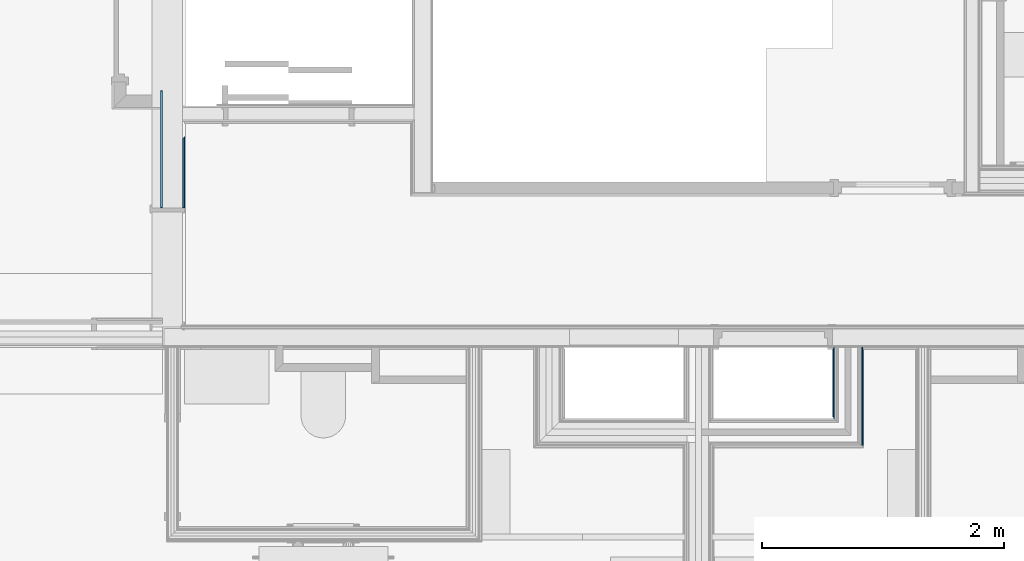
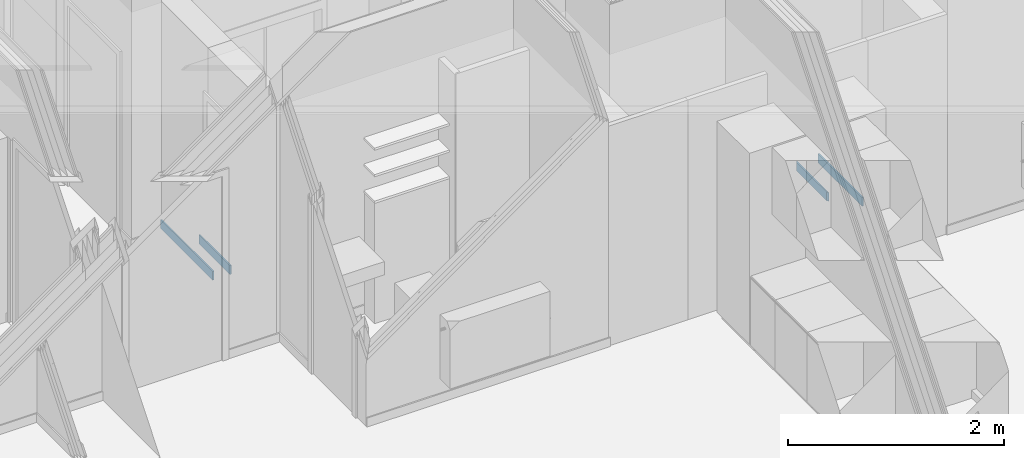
# One storey, part 9 of 65: 4 walls, 2 openings.
"""IFC2X3 building model written with IfcOpenShell, lengths in metres."""

import ifcopenshell
import ifcopenshell.guid

model = None  # the IFC model being written
_history = None  # IfcOwnerHistory: only IFC2X3 demands one
_inside = {}  # id of a spatial element -> (the spatial element, [elements in it])
_under = {}  # id of a project, library or spatial element -> (it, [spatial elements below it])
_declared = {}  # id of a project -> (the project, [libraries it declares])
_typed = {}  # id of a type object -> (the type object, [elements of that type])
_made_of = {}  # id of a material, layer set ... -> (it, [elements and type objects made of it])


def new_model(schema):
    """Start an empty IFC model of exactly this schema.

    Asked for "IFC4X3", IfcOpenShell would pick the latest addendum, in which some entities
    have other attributes; the version numbers below select the first issue.
    IFC2X3 requires an IfcOwnerHistory on every rooted entity: one is made here for all.
    """
    global model, _history
    if schema == "IFC4X3":
        model = ifcopenshell.file(schema_version=(4, 3, 0, 0))
    else:
        model = ifcopenshell.file(schema=schema)
    _inside.clear()
    _under.clear()
    _declared.clear()
    _typed.clear()
    _made_of.clear()
    _history = None
    if model.schema == "IFC2X3":
        org = make("IfcOrganization", Name="unknown")
        user = make(
            "IfcPersonAndOrganization",
            ThePerson=make("IfcPerson", FamilyName="unknown"),
            TheOrganization=org,
        )
        app = make(
            "IfcApplication",
            ApplicationDeveloper=org,
            Version="unknown",
            ApplicationFullName="unknown",
            ApplicationIdentifier="unknown",
        )
        _history = make(
            "IfcOwnerHistory",
            OwningUser=user,
            OwningApplication=app,
            ChangeAction="ADDED",
            CreationDate=0,
        )
    return model


def make(cls, **values):
    """One entity of the class cls with the attributes given. An attribute that is None is left unset."""
    return model.create_entity(
        cls, **{name: value for name, value in values.items() if value is not None}
    )


def entity(cls, *values):
    """Any entity or typed value of the class cls, its attributes in the order of the schema. None: left unset."""
    e = model.create_entity(cls)
    for i, value in enumerate(values):
        if value is not None:
            e[i] = value
    return e


def rooted(cls, **values):
    """An entity with a GlobalId (a new one), such as an element, a storey or a relation."""
    return make(cls, GlobalId=ifcopenshell.guid.new(), OwnerHistory=_history, **values)


def si_unit(unit_type, name, prefix=None):
    """IfcSIUnit, for example si_unit("LENGTHUNIT", "METRE", prefix="MILLI")."""
    return make("IfcSIUnit", UnitType=unit_type, Prefix=prefix, Name=name)


def converted_unit(unit_type, name, factor, base, dimensions=None, offset=None):
    """IfcConversionBasedUnit, such as the inch: factor (a typed value) times the base unit."""
    return make(
        "IfcConversionBasedUnit"
        if offset is None
        else "IfcConversionBasedUnitWithOffset",
        ConversionOffset=offset,
        Dimensions=None
        if dimensions is None
        else entity("IfcDimensionalExponents", *dimensions),
        UnitType=unit_type,
        Name=name,
        ConversionFactor=make(
            "IfcMeasureWithUnit", ValueComponent=factor, UnitComponent=base
        ),
    )


def derived_unit(unit_type, elements):
    """IfcDerivedUnit: a product of units, each with its exponent."""
    return make(
        "IfcDerivedUnit",
        Elements=[
            make("IfcDerivedUnitElement", Unit=unit, Exponent=power)
            for unit, power in elements
        ],
        UnitType=unit_type,
    )


def money_unit(currency):
    """IfcMonetaryUnit."""
    return make("IfcMonetaryUnit", Currency=currency)


def assignment(units):
    """IfcUnitAssignment: the units of a project."""
    return None if units is None else make("IfcUnitAssignment", Units=units)


def point(xyz):
    """IfcCartesianPoint."""
    return None if xyz is None else make("IfcCartesianPoint", Coordinates=xyz)


def direction(xyz):
    """IfcDirection."""
    return None if xyz is None else make("IfcDirection", DirectionRatios=xyz)


def frame(location, z_axis=None, x_axis=None):
    """IfcAxis2Placement3D, a coordinate frame: its origin and axes. An axis left out is left unset."""
    return make(
        "IfcAxis2Placement3D",
        Location=point(location),
        Axis=direction(z_axis),
        RefDirection=direction(x_axis),
    )


def frame_2d(location, x_axis=None):
    """IfcAxis2Placement2D, a coordinate frame in the plane: its origin and x axis."""
    return make(
        "IfcAxis2Placement2D", Location=point(location), RefDirection=direction(x_axis)
    )


def origin_with_axes():
    """The frame at (0, 0, 0) with the z axis (0, 0, 1) and the x axis (1, 0, 0) written out."""
    return frame((0.0, 0.0, 0.0), z_axis=(0.0, 0.0, 1.0), x_axis=(1.0, 0.0, 0.0))


def place(relative_to, where):
    """IfcLocalPlacement: puts the frame where relative to a parent placement (None: the world)."""
    return make(
        "IfcLocalPlacement", PlacementRelTo=relative_to, RelativePlacement=where
    )


def context(
    kind, dimensions, precision=None, world=None, true_north=None, identifier=None
):
    """IfcGeometricRepresentationContext, for example the 3D "Model" context."""
    return make(
        "IfcGeometricRepresentationContext",
        ContextIdentifier=identifier,
        ContextType=kind,
        CoordinateSpaceDimension=dimensions,
        Precision=precision,
        WorldCoordinateSystem=world,
        TrueNorth=true_north,
    )


def subcontext(parent, identifier, kind, view, scale=None):
    """IfcGeometricRepresentationSubContext, for example "Body" below "Model"."""
    return make(
        "IfcGeometricRepresentationSubContext",
        ContextIdentifier=identifier,
        ContextType=kind,
        ParentContext=parent,
        TargetScale=scale,
        TargetView=view,
    )


def project(units=None, contexts=None):
    """IfcProject with its units and contexts."""
    return rooted(
        "IfcProject",
        Name="project",
        RepresentationContexts=contexts,
        UnitsInContext=assignment(units),
    )


def spatial(cls, under=None, at=None, **own):
    """A site, building, storey or space (cls), placed at a placement, below another one or the project."""
    s = rooted(cls, ObjectPlacement=at, **own)
    if under is not None:
        _under.setdefault(under.id(), (under, []))[1].append(s)
    return s


def polyline(points):
    """IfcPolyline through the points."""
    return make("IfcPolyline", Points=[point(p) for p in points])


def profile(cls, at=None, kind="AREA", **sizes):
    """A parametric profile (cls). Its sizes go by their IFC names, for example OverallWidth=200.0."""
    return make(cls, ProfileType=kind, Position=at, **sizes)


def rectangle(**sizes):
    """IfcRectangleProfileDef."""
    return profile("IfcRectangleProfileDef", **sizes)


def outline(outer, holes=None, kind="AREA"):
    """IfcArbitraryClosedProfileDef: a profile drawn as a closed curve; with holes, ...WithVoids."""
    if holes is None:
        return make("IfcArbitraryClosedProfileDef", ProfileType=kind, OuterCurve=outer)
    return make(
        "IfcArbitraryProfileDefWithVoids",
        ProfileType=kind,
        OuterCurve=outer,
        InnerCurves=holes,
    )


def extrude(swept, where, along, depth):
    """IfcExtrudedAreaSolid: the profile swept, set in the frame where, extruded along a direction by depth."""
    return make(
        "IfcExtrudedAreaSolid",
        SweptArea=swept,
        Position=where,
        ExtrudedDirection=direction(along),
        Depth=depth,
    )


def shape(context_of_items, identifier, shape_type, items):
    """IfcShapeRepresentation: the items that make up one representation, for example the "Body"."""
    return make(
        "IfcShapeRepresentation",
        ContextOfItems=context_of_items,
        RepresentationIdentifier=identifier,
        RepresentationType=shape_type,
        Items=items,
    )


def material(Name=None, Category=None):
    """IfcMaterial."""
    return make("IfcMaterial", Name=Name, Category=Category)


def layer(
    of_material, thickness, ventilated=None, Name=None, Category=None, Priority=None
):
    """IfcMaterialLayer: one layer of a wall or slab, of a material (None: an air gap)."""
    return make(
        "IfcMaterialLayer",
        Material=of_material,
        LayerThickness=thickness,
        IsVentilated=ventilated,
        Name=Name,
        Category=Category,
        Priority=Priority,
    )


def layer_set(layers, Name=None):
    """IfcMaterialLayerSet."""
    return make("IfcMaterialLayerSet", MaterialLayers=layers, LayerSetName=Name)


def layer_usage(for_layer_set, set_direction, sense, offset, extent=None):
    """IfcMaterialLayerSetUsage: how a layer set lies in its element."""
    return make(
        "IfcMaterialLayerSetUsage",
        ForLayerSet=for_layer_set,
        LayerSetDirection=set_direction,
        DirectionSense=sense,
        OffsetFromReferenceLine=offset,
        ReferenceExtent=extent,
    )


def made_of(thing, what):
    """Note that an element or type object is made of a material, layer set ...; save() writes the relation."""
    if what is not None:
        _made_of.setdefault(what.id(), (what, []))[1].append(thing)
    return thing


def type_object(cls, material=None, **own):
    """A type object (cls), such as IfcWallType, which elements share."""
    return made_of(rooted(cls, **own), material)


def element(
    cls,
    number,
    at=None,
    inside=None,
    cuts=None,
    type_object=None,
    material=None,
    context=None,
    identifier="Body",
    shape_type=None,
    held_by="IfcProductDefinitionShape",
    body=None,
    shapes=None,
    **own,
):
    """One element of the class cls, such as IfcWall. Its Tag is "e" and its number.

    at: its placement. inside: the storey or other place that contains it. cuts: it is an
    opening in that element (IfcRelVoidsElement). A single representation is given by context,
    identifier, shape_type and body (its items); several are given by shapes. held_by: the class
    of the entity that holds the representations. save() writes the other relations.
    """
    e = rooted(cls, Tag="e%d" % number, ObjectPlacement=at, **own)
    if body is not None:
        shapes = [shape(context, identifier, shape_type, body)]
    if shapes is not None:
        e.Representation = make(held_by, Representations=shapes)
    if inside is not None:
        _inside.setdefault(inside.id(), (inside, []))[1].append(e)
    if cuts is not None:
        rooted(
            "IfcRelVoidsElement", RelatingBuildingElement=cuts, RelatedOpeningElement=e
        )
    if type_object is not None:
        _typed.setdefault(type_object.id(), (type_object, []))[1].append(e)
    return made_of(e, material)


def aggregate(whole, parts):
    """IfcRelAggregates: a whole, such as a stair, and the parts it consists of."""
    return rooted("IfcRelAggregates", RelatingObject=whole, RelatedObjects=parts)


def save(model, path):
    """Write the relations noted so far, then the file.

    IfcRelAggregates (storeys below a building ...), IfcRelContainedInSpatialStructure (elements
    in a storey), IfcRelDefinesByType, IfcRelAssociatesMaterial and IfcRelDeclares: one each for
    every whole, place, type object, material and project.
    """
    for whole, parts in _under.values():
        aggregate(whole, parts)
    for where, things in _inside.values():
        rooted(
            "IfcRelContainedInSpatialStructure",
            RelatedElements=things,
            RelatingStructure=where,
        )
    for kind, things in _typed.values():
        rooted("IfcRelDefinesByType", RelatedObjects=things, RelatingType=kind)
    for what, things in _made_of.values():
        rooted("IfcRelAssociatesMaterial", RelatedObjects=things, RelatingMaterial=what)
    for by, libraries in _declared.values():
        rooted("IfcRelDeclares", RelatingContext=by, RelatedDefinitions=libraries)
    model.write(path)


model = new_model("IFC2X3")

# Units and contexts
model_context = context("Model", 3, precision=1e-05, world=origin_with_axes(), true_north=direction((0.0, 1.0)))
body_context = subcontext(model_context, "Body", "Model", "MODEL_VIEW", scale=1.0)
ifc_project = project(units=[si_unit("LENGTHUNIT", "METRE"), si_unit("AREAUNIT", "SQUARE_METRE"), si_unit("VOLUMEUNIT", "CUBIC_METRE"), si_unit("ABSORBEDDOSEUNIT", "GRAY"), si_unit("AMOUNTOFSUBSTANCEUNIT", "MOLE"), si_unit("DOSEEQUIVALENTUNIT", "SIEVERT"), si_unit("ELECTRICCAPACITANCEUNIT", "FARAD"), si_unit("ELECTRICCHARGEUNIT", "COULOMB"), si_unit("ELECTRICCONDUCTANCEUNIT", "SIEMENS"), si_unit("ELECTRICCURRENTUNIT", "AMPERE"), si_unit("ELECTRICRESISTANCEUNIT", "OHM"), si_unit("ELECTRICVOLTAGEUNIT", "VOLT"), si_unit("ENERGYUNIT", "JOULE"), si_unit("FORCEUNIT", "NEWTON"), si_unit("FREQUENCYUNIT", "HERTZ"), si_unit("ILLUMINANCEUNIT", "LUX"), si_unit("INDUCTANCEUNIT", "HENRY"), si_unit("LUMINOUSFLUXUNIT", "LUMEN"), si_unit("LUMINOUSINTENSITYUNIT", "CANDELA"), si_unit("MAGNETICFLUXDENSITYUNIT", "TESLA"), si_unit("MAGNETICFLUXUNIT", "WEBER"), si_unit("MASSUNIT", "GRAM"), converted_unit("PLANEANGLEUNIT", "degree", entity("IfcReal", 0.0174532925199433), si_unit("PLANEANGLEUNIT", "RADIAN"), dimensions=[0, 0, 0, 0, 0, 0, 0]), si_unit("POWERUNIT", "WATT"), si_unit("PRESSUREUNIT", "PASCAL"), si_unit("RADIOACTIVITYUNIT", "BECQUEREL"), si_unit("SOLIDANGLEUNIT", "STERADIAN"), si_unit("THERMODYNAMICTEMPERATUREUNIT", "KELVIN"), si_unit("TIMEUNIT", "SECOND"), derived_unit("ACCELERATIONUNIT", [(si_unit("LENGTHUNIT", "METRE"), 1), (si_unit("TIMEUNIT", "SECOND"), -2)]), derived_unit("ANGULARVELOCITYUNIT", [(converted_unit("PLANEANGLEUNIT", "degree", entity("IfcReal", 0.0174532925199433), si_unit("PLANEANGLEUNIT", "RADIAN"), dimensions=[0, 0, 0, 0, 0, 0, 0]), 1), (si_unit("TIMEUNIT", "SECOND"), -1)]), derived_unit("CURVATUREUNIT", [(converted_unit("PLANEANGLEUNIT", "degree", entity("IfcReal", 0.0174532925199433), si_unit("PLANEANGLEUNIT", "RADIAN"), dimensions=[0, 0, 0, 0, 0, 0, 0]), 1), (si_unit("LENGTHUNIT", "METRE"), -1)]), derived_unit("DYNAMICVISCOSITYUNIT", [(si_unit("PRESSUREUNIT", "PASCAL"), 1), (si_unit("TIMEUNIT", "SECOND"), 1)]), derived_unit("HEATFLUXDENSITYUNIT", [(si_unit("POWERUNIT", "WATT"), 1), (si_unit("LENGTHUNIT", "METRE"), -2)]), derived_unit("HEATINGVALUEUNIT", [(si_unit("ENERGYUNIT", "JOULE"), 1), (si_unit("MASSUNIT", "GRAM"), -1)]), derived_unit("INTEGERCOUNTRATEUNIT", [(si_unit("TIMEUNIT", "SECOND"), -1)]), derived_unit("IONCONCENTRATIONUNIT", [(si_unit("MASSUNIT", "GRAM"), 1), (si_unit("VOLUMEUNIT", "CUBIC_METRE"), -1)]), derived_unit("ISOTHERMALMOISTURECAPACITYUNIT", [(si_unit("VOLUMEUNIT", "CUBIC_METRE"), 1), (si_unit("MASSUNIT", "GRAM"), -1)]), derived_unit("KINEMATICVISCOSITYUNIT", [(si_unit("AREAUNIT", "SQUARE_METRE"), 1), (si_unit("TIMEUNIT", "SECOND"), -1)]), derived_unit("LINEARFORCEUNIT", [(si_unit("FORCEUNIT", "NEWTON"), 1), (si_unit("LENGTHUNIT", "METRE"), -1)]), derived_unit("LINEARMOMENTUNIT", [(si_unit("FORCEUNIT", "NEWTON"), 1), (si_unit("LENGTHUNIT", "METRE"), -1)]), derived_unit("LINEARSTIFFNESSUNIT", [(si_unit("FORCEUNIT", "NEWTON"), 1), (si_unit("LENGTHUNIT", "METRE"), -1)]), derived_unit("LINEARVELOCITYUNIT", [(si_unit("LENGTHUNIT", "METRE"), 1), (si_unit("TIMEUNIT", "SECOND"), -1)]), derived_unit("LUMINOUSINTENSITYDISTRIBUTIONUNIT", [(si_unit("LUMINOUSINTENSITYUNIT", "CANDELA"), 1), (si_unit("LUMINOUSFLUXUNIT", "LUMEN"), -1)]), derived_unit("MASSDENSITYUNIT", [(si_unit("MASSUNIT", "GRAM"), 1), (si_unit("VOLUMEUNIT", "CUBIC_METRE"), -1)]), derived_unit("MASSFLOWRATEUNIT", [(si_unit("MASSUNIT", "GRAM"), 1), (si_unit("TIMEUNIT", "SECOND"), -1)]), derived_unit("MASSPERLENGTHUNIT", [(si_unit("MASSUNIT", "GRAM"), 1), (si_unit("LENGTHUNIT", "METRE"), -1)]), derived_unit("MODULUSOFELASTICITYUNIT", [(si_unit("FORCEUNIT", "NEWTON"), 1), (si_unit("AREAUNIT", "SQUARE_METRE"), -1)]), derived_unit("MODULUSOFLINEARSUBGRADEREACTIONUNIT", [(si_unit("FORCEUNIT", "NEWTON"), 1), (si_unit("LENGTHUNIT", "METRE"), -2)]), derived_unit("MODULUSOFROTATIONALSUBGRADEREACTIONUNIT", [(si_unit("FORCEUNIT", "NEWTON"), 1), (si_unit("LENGTHUNIT", "METRE"), 1)]), derived_unit("MODULUSOFSUBGRADEREACTIONUNIT", [(si_unit("FORCEUNIT", "NEWTON"), 1), (si_unit("VOLUMEUNIT", "CUBIC_METRE"), -1)]), derived_unit("MOISTUREDIFFUSIVITYUNIT", [(si_unit("VOLUMEUNIT", "CUBIC_METRE"), 1), (si_unit("TIMEUNIT", "SECOND"), -1)]), derived_unit("MOLECULARWEIGHTUNIT", [(si_unit("MASSUNIT", "GRAM"), 1), (si_unit("AMOUNTOFSUBSTANCEUNIT", "MOLE"), -1)]), derived_unit("PLANARFORCEUNIT", [(si_unit("FORCEUNIT", "NEWTON"), 1), (si_unit("LENGTHUNIT", "METRE"), -2)]), derived_unit("ROTATIONALFREQUENCYUNIT", [(si_unit("TIMEUNIT", "SECOND"), -1)]), derived_unit("ROTATIONALMASSUNIT", [(si_unit("MASSUNIT", "GRAM"), 1), (si_unit("LENGTHUNIT", "METRE"), 2)]), derived_unit("ROTATIONALSTIFFNESSUNIT", [(si_unit("FORCEUNIT", "NEWTON"), 1), (si_unit("LENGTHUNIT", "METRE"), 1), (converted_unit("PLANEANGLEUNIT", "degree", entity("IfcReal", 0.0174532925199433), si_unit("PLANEANGLEUNIT", "RADIAN"), dimensions=[0, 0, 0, 0, 0, 0, 0]), -1)]), derived_unit("SECTIONAREAINTEGRALUNIT", [(si_unit("LENGTHUNIT", "METRE"), 5)]), derived_unit("SECTIONMODULUSUNIT", [(si_unit("LENGTHUNIT", "METRE"), 3)]), derived_unit("SHEARMODULUSUNIT", [(si_unit("FORCEUNIT", "NEWTON"), 1), (si_unit("AREAUNIT", "SQUARE_METRE"), -1)]), derived_unit("SOUNDPOWERUNIT", [(si_unit("ENERGYUNIT", "JOULE"), 1), (si_unit("TIMEUNIT", "SECOND"), -1)]), derived_unit("SPECIFICHEATCAPACITYUNIT", [(si_unit("FORCEUNIT", "NEWTON"), 1), (si_unit("MASSUNIT", "GRAM"), -1), (si_unit("THERMODYNAMICTEMPERATUREUNIT", "KELVIN"), -1)]), derived_unit("TEMPERATUREGRADIENTUNIT", [(si_unit("THERMODYNAMICTEMPERATUREUNIT", "KELVIN"), 1), (si_unit("LENGTHUNIT", "METRE"), -1)]), derived_unit("THERMALADMITTANCEUNIT", [(si_unit("POWERUNIT", "WATT"), 1), (si_unit("AREAUNIT", "SQUARE_METRE"), -1), (si_unit("THERMODYNAMICTEMPERATUREUNIT", "KELVIN"), -1)]), derived_unit("THERMALCONDUCTANCEUNIT", [(si_unit("POWERUNIT", "WATT"), 1), (si_unit("LENGTHUNIT", "METRE"), -1), (si_unit("THERMODYNAMICTEMPERATUREUNIT", "KELVIN"), -1)]), derived_unit("THERMALEXPANSIONCOEFFICIENTUNIT", [(si_unit("THERMODYNAMICTEMPERATUREUNIT", "KELVIN"), -1)]), derived_unit("THERMALRESISTANCEUNIT", [(si_unit("AREAUNIT", "SQUARE_METRE"), 1), (si_unit("POWERUNIT", "WATT"), -1)]), derived_unit("THERMALTRANSMITTANCEUNIT", [(si_unit("POWERUNIT", "WATT"), 1), (si_unit("AREAUNIT", "SQUARE_METRE"), -1), (si_unit("THERMODYNAMICTEMPERATUREUNIT", "KELVIN"), -1)]), derived_unit("TORQUEUNIT", [(si_unit("FORCEUNIT", "NEWTON"), 1), (si_unit("LENGTHUNIT", "METRE"), 1)]), derived_unit("VAPORPERMEABILITYUNIT", [(si_unit("MASSUNIT", "GRAM"), 1), (si_unit("TIMEUNIT", "SECOND"), -1)]), derived_unit("VOLUMETRICFLOWRATEUNIT", [(si_unit("VOLUMEUNIT", "CUBIC_METRE"), 1), (si_unit("TIMEUNIT", "SECOND"), -1)]), derived_unit("WARPINGCONSTANTUNIT", [(si_unit("LENGTHUNIT", "METRE"), 6)]), derived_unit("WARPINGMOMENTUNIT", [(si_unit("FORCEUNIT", "NEWTON"), 1), (si_unit("LENGTHUNIT", "METRE"), 2)]), money_unit("GBP")], contexts=[model_context])

# Site, building, storey
site_placement = place(None, origin_with_axes())
site = spatial("IfcSite", under=ifc_project, at=site_placement, Name="Site", CompositionType="ELEMENT")
building_placement = place(site_placement, origin_with_axes())
building = spatial("IfcBuilding", under=site, at=building_placement, Name="Building01", CompositionType="ELEMENT")
storey_placement = place(building_placement, frame((0.0, 0.0, 8.64), z_axis=(0.0, 0.0, 1.0), x_axis=(1.0, 0.0, 0.0)))
storey = spatial("IfcBuildingStorey", under=building, at=storey_placement, Name="2F", CompositionType="ELEMENT", Elevation=8.64)

# Wall, opening
ifc_material = material(Name="A_BSUK_Walls_Timber")
ifc_layer = layer(ifc_material, 0.015, ventilated=False)
ifc_layer_set = layer_set([ifc_layer])
ifc_layer_usage = layer_usage(ifc_layer_set, "AXIS2", "POSITIVE", 0.0)
wall_type = type_object("IfcWallType", Name="default", PredefinedType="NOTDEFINED")
wall_1_placement = place(storey_placement, frame((9.23, 6.709081, 0.015), z_axis=(0.0, 0.0, 1.0), x_axis=(0.0, -1.0, 0.0)))
wall_1 = element("IfcWallStandardCase", 1, at=wall_1_placement, inside=storey, type_object=wall_type, material=ifc_layer_usage, Name="default", ObjectType="default", context=body_context, shape_type="SweptSolid", body=[
    extrude(outline(polyline([(1.544081, 0.015), (-0.015, 0.015), (0.0, 0.0), (1.544081, 0.0), (1.544081, 0.015)])), origin_with_axes(), (0.0, 0.0, 1.0), 0.1),
])
opening_1_placement = place(wall_1_placement, frame((0.571363, 0.0, -0.015), z_axis=(0.0, 0.0, 1.0), x_axis=(1.0, 0.0, 0.0)))
element("IfcOpeningElement", 2, at=opening_1_placement, cuts=wall_1, Name="Opening", ObjectType="Opening", context=body_context, shape_type="SweptSolid", body=[
    extrude(rectangle(XDim=0.984, YDim=2.142, at=frame_2d((-0.492, 1.071), x_axis=(1.0, 0.0))), frame((0.0, 0.0, 0.0), z_axis=(0.0, 1.0, 0.0), x_axis=(-1.0, 0.0, 0.0)), (0.0, 0.0, 1.0), 0.015),
])

wall_2_placement = place(storey_placement, frame((9.045, 7.103405, 0.015), z_axis=(0.0, 0.0, 1.0), x_axis=(0.0, -1.0, 0.0)))
wall_2 = element("IfcWallStandardCase", 3, at=wall_2_placement, inside=storey, type_object=wall_type, material=ifc_layer_usage, Name="default", ObjectType="default", context=body_context, shape_type="SweptSolid", body=[
    extrude(rectangle(XDim=1.883405, YDim=0.015, at=frame_2d((0.941702, 0.0075), x_axis=(-1.0, 0.0))), origin_with_axes(), (0.0, 0.0, 1.0), 0.1),
])
opening_2_placement = place(wall_2_placement, frame((0.965686, 0.0, -0.015), z_axis=(0.0, 0.0, 1.0), x_axis=(1.0, 0.0, 0.0)))
element("IfcOpeningElement", 4, at=opening_2_placement, cuts=wall_2, Name="Opening", ObjectType="Opening", context=body_context, shape_type="SweptSolid", body=[
    extrude(rectangle(XDim=0.984, YDim=2.142, at=frame_2d((-0.492, 1.071), x_axis=(1.0, 0.0))), frame((0.0, 0.0, 0.0), z_axis=(0.0, 1.0, 0.0), x_axis=(-1.0, 0.0, 0.0)), (0.0, 0.0, 1.0), 0.015),
])

# Walls
wall_3_placement = place(storey_placement, frame((14.61, 4.965, 0.015), z_axis=(0.0, 0.0, 1.0), x_axis=(0.0, -1.0, 0.0)))
element("IfcWallStandardCase", 5, at=wall_3_placement, inside=storey, type_object=wall_type, material=ifc_layer_usage, Name="default", ObjectType="default", context=body_context, shape_type="SweptSolid", body=[
    extrude(outline(polyline([(0.575572, 0.015), (-0.015, 0.015), (0.0, 0.0), (0.560572, 0.0), (0.575572, 0.015)])), origin_with_axes(), (0.0, 0.0, 1.0), 0.1),
])
wall_4_placement = place(storey_placement, frame((14.85, 4.98, 0.015), z_axis=(0.0, 0.0, 1.0), x_axis=(0.0, -1.0, 0.0)))
element("IfcWallStandardCase", 6, at=wall_4_placement, inside=storey, type_object=wall_type, material=ifc_layer_usage, Name="default", ObjectType="default", context=body_context, shape_type="SweptSolid", body=[
    extrude(rectangle(XDim=0.815572, YDim=0.015, at=frame_2d((0.407786, 0.0075), x_axis=(-1.0, 0.0))), origin_with_axes(), (0.0, 0.0, 1.0), 0.1),
])

save(model, "model.ifc")
